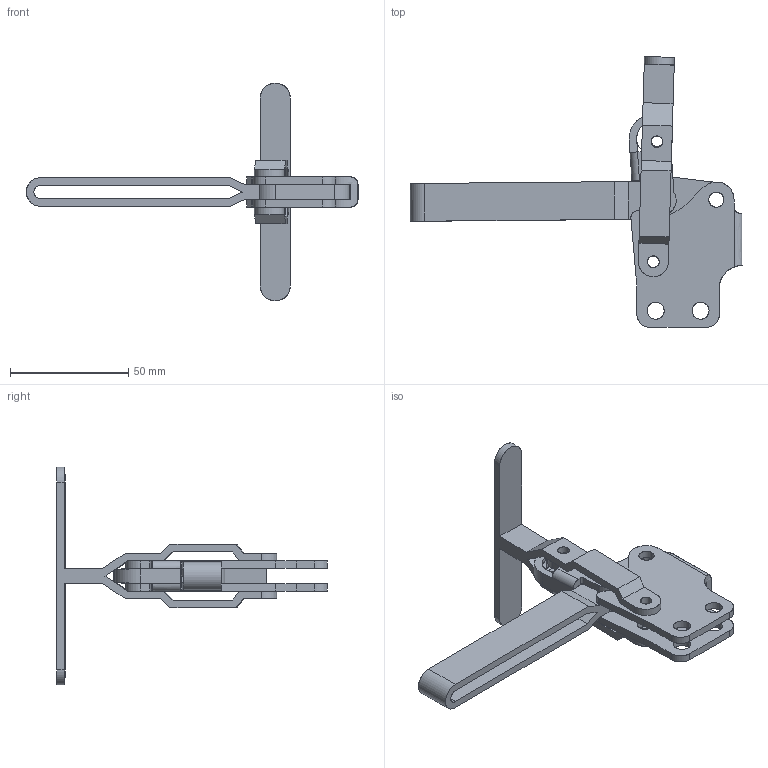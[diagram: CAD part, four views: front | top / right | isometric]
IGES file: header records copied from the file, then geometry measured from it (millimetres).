
Start section: SolidWorks IGES file using analytic representation for surfaces
Global section: file name: D:\GH Files\GH-SW-FILES\GH1\GH-12135,12136,12137,12138\12138\GH-12138.igs; native system: SolidWorks 2006 by SolidWorks Corporation; preprocessor: SolidWorks 2006 by SolidWorks Corporation; author: Administrator; date: 060824.171200; units: millimetre
Bounding box: 140.52 x 114.59 x 92.1 mm (x, y, z)
Surface area: 31128.2 mm2 (no closed solid volume)
Topology: 0 solids, 0 shells, 173 faces, 2891 edges, 2891 vertices
Faces by surface type: revolution 89, bspline 84
